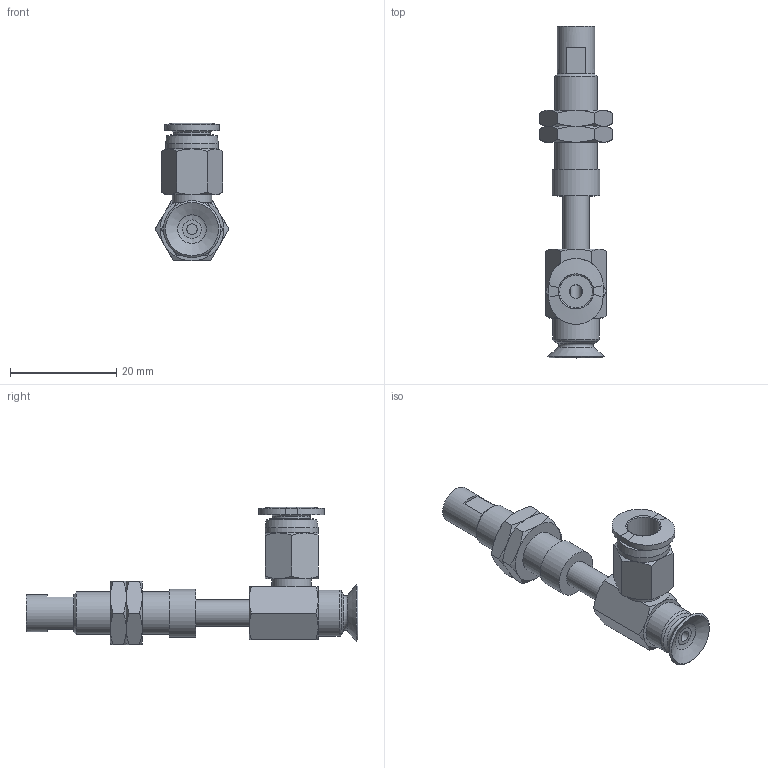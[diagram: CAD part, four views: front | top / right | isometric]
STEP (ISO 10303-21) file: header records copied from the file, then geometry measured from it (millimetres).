
FILE_DESCRIPTION(('STEP AP203'),'1');
FILE_NAME('-O.stp','2025-04-09T06:53:36',(' '),(' '),'Spatial InterOp 3D',' ',' ');
FILE_SCHEMA(('CONFIG_CONTROL_DESIGN'));
Length unit declared in the file: millimetre
Products named in the file (7): BNABPFYS-10A-10-※-O; CONNECTOR-10A-10; Nut-10A-10-s; NAPFTS-10A-10-FBODY; NAPFTS-10A-10-MBODY; BPFG-10A-※; PC-C_06-M5
Assembly tree (7 placements, depth 2):
  BNABPFYS-10A-10-※-O
    CONNECTOR-10A-10
    Nut-10A-10-s  x2
    NAPFTS-10A-10-FBODY
    NAPFTS-10A-10-MBODY
    BPFG-10A-※
    PC-C_06-M5
Bounding box: 13.86 x 62.5 x 25.98 mm (x, y, z)
Volume: 3493.7 mm3; surface area: 5297.9 mm2
Topology: 6 solids, 9 shells, 180 faces, 372 edges, 225 vertices
Faces by surface type: plane 69, cone 67, cylinder 26, torus 10, bspline 5, revolution 3
Full cylindrical faces by diameter (mm): 2 x2, 4 x4, 4.134 x2, 5 x4, 6 x2, 7 x2, 7.188 x2, 7.4 x1, 8 x1, 8.2 x1, 8.7 x1, 9 x1, 10 x1
Entity records: 4643 total; most frequent: CARTESIAN_POINT 1339, DIRECTION 615, ORIENTED_EDGE 522, AXIS2_PLACEMENT_3D 277, EDGE_CURVE 263, EDGE_LOOP 236, VERTEX_POINT 187, FACE_OUTER_BOUND 131
